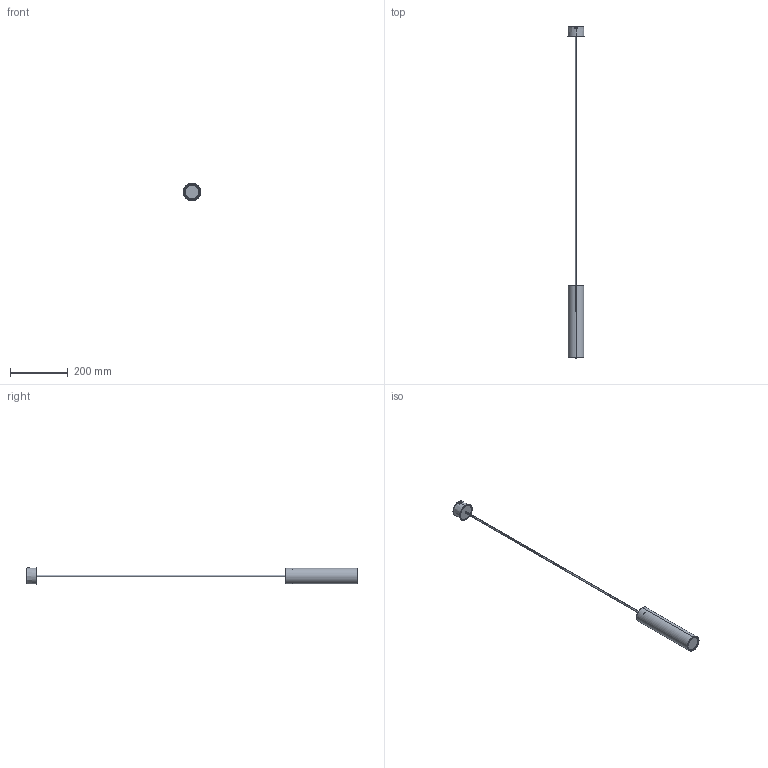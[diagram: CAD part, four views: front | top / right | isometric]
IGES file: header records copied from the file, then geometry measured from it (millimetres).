
Start section: SolidWorks IGES file using analytic representation for surfaces
Global section: file name: E:\3D lampy\Lampy Katalogowe\Eye\Wisz¹ce\M\Eye M zwis.IGS; native system: SolidWorks 2016; preprocessor: SolidWorks 2016; author: Asia; date: 160727.154646; units: millimetre
Bounding box: 60 x 1146 x 60 mm (x, y, z)
Surface area: 138693.3 mm2 (no closed solid volume)
Topology: 0 solids, 0 shells, 114 faces, 2130 edges, 2130 vertices
Faces by surface type: bspline 61, revolution 53
